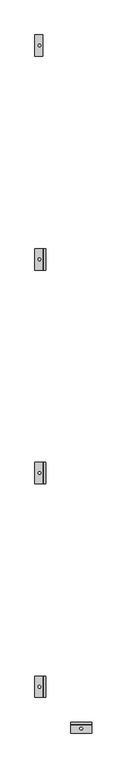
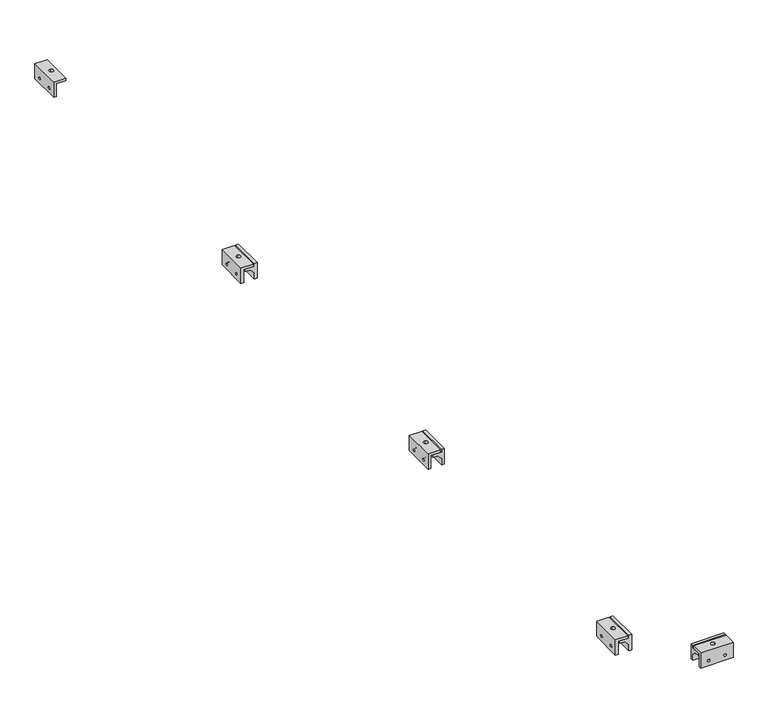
"""IFC4 building model written with IfcOpenShell, lengths in millimetres: railing geometry, Handrail-InPro-HR12-C-Prism-Metal_Bracket-Wood."""

from ifc_helpers import new_model, si_unit, frame, origin, place, context, project, spatial, polyline, circle_curve, ellipse_curve, source, transform, mapped, element, save
from ifc_brep_helpers import plane_surface, revolved_surface, advanced_brep


def railing_993f5558(model_context):
    return source(origin(), model_context, "Body", "AdvancedBrep", [
        advanced_brep(
        [(-5165.0382624, 1762.7943008, 844.55), (-5165.0382624, 1785.0193008, 844.55), (-5165.0382624, 1785.0193008, 850.9), (-5165.0382624, 1756.4443008, 850.9), (-5165.0382624, 1756.4443008, 812.8), (-5165.0382624, 1762.7943008, 812.8), (-5241.2382624, 1762.7943008, 844.55), (-5241.2382624, 1762.7943008, 812.8), (-5241.2382624, 1756.4443008, 812.8), (-5241.2382624, 1756.4443008, 850.9), (-5241.2382624, 1785.0193008, 850.9), (-5241.2382624, 1785.0193008, 844.55), (-5207.9007624, 1772.7161758, 844.55), (-5198.3757624, 1772.7161758, 844.55), (-5198.3757624, 1772.7161758, 850.9), (-5207.9007624, 1772.7161758, 850.9), (-5219.4704624, 1756.4443008, 825.3070671), (-5224.9060624, 1756.4443008, 825.3070671), (-5181.3704624, 1756.4443008, 825.3070671), (-5186.8060624, 1756.4443008, 825.3070671), (-5224.9060624, 1762.7943008, 825.3070671), (-5219.4704624, 1762.7943008, 825.3070671), (-5186.8060624, 1762.7943008, 825.3070671), (-5181.3704624, 1762.7943008, 825.3070671)],
        [
            (0, 1),
            (1, 2),
            (2, 3),
            (3, 4),
            (4, 5),
            (5, 0),
            (6, 7),
            (7, 8),
            (8, 9),
            (9, 10),
            (10, 11),
            (11, 6),
            (0, 6),
            (11, 1),
            (12, 13, circle_curve(frame((-5203.1382624, 1772.7161758, 844.55), z_axis=(0.0, 0.0, 1.0), x_axis=(1.0, 0.0, 0.0)), 4.7625)),
            (13, 12, circle_curve(frame((-5203.1382624, 1772.7161758, 844.55), z_axis=(0.0, 0.0, 1.0), x_axis=(1.0, 0.0, 0.0)), 4.7625)),
            (10, 2),
            (9, 3),
            (14, 15, circle_curve(frame((-5203.1382624, 1772.7161758, 850.9), z_axis=(0.0, 0.0, -1.0), x_axis=(1.0, 0.0, 0.0)), 4.7625)),
            (15, 14, circle_curve(frame((-5203.1382624, 1772.7161758, 850.9), z_axis=(0.0, 0.0, -1.0), x_axis=(1.0, 0.0, 0.0)), 4.7625)),
            (8, 4),
            (16, 17, circle_curve(frame((-5222.1882624, 1756.4443008, 825.3070671), z_axis=(0.0, 1.0, 0.0), x_axis=(-1.0, 0.0, 0.0)), 2.7178)),
            (17, 16, circle_curve(frame((-5222.1882624, 1756.4443008, 825.3070671), z_axis=(0.0, 1.0, 0.0), x_axis=(-1.0, 0.0, 0.0)), 2.7178)),
            (18, 19, circle_curve(frame((-5184.0882624, 1756.4443008, 825.3070671), z_axis=(0.0, 1.0, 0.0), x_axis=(-1.0, 0.0, 0.0)), 2.7178)),
            (19, 18, circle_curve(frame((-5184.0882624, 1756.4443008, 825.3070671), z_axis=(0.0, 1.0, 0.0), x_axis=(-1.0, 0.0, 0.0)), 2.7178)),
            (7, 5),
            (20, 21, circle_curve(frame((-5222.1882624, 1762.7943008, 825.3070671), z_axis=(0.0, -1.0, 0.0), x_axis=(-1.0, 0.0, 0.0)), 2.7178)),
            (21, 20, circle_curve(frame((-5222.1882624, 1762.7943008, 825.3070671), z_axis=(0.0, -1.0, 0.0), x_axis=(-1.0, 0.0, 0.0)), 2.7178)),
            (22, 23, circle_curve(frame((-5184.0882624, 1762.7943008, 825.3070671), z_axis=(0.0, -1.0, 0.0), x_axis=(-1.0, 0.0, 0.0)), 2.7178)),
            (23, 22, circle_curve(frame((-5184.0882624, 1762.7943008, 825.3070671), z_axis=(0.0, -1.0, 0.0), x_axis=(-1.0, 0.0, 0.0)), 2.7178)),
            (12, 15),
            (14, 13),
            (20, 17),
            (16, 21),
            (22, 19),
            (18, 23),
        ],
        [
            plane_surface(frame((-5165.0382624, 1762.7943008, 844.55), z_axis=(1.0, 0.0, 0.0), x_axis=(0.0, 1.0, 0.0))),
            plane_surface(frame((-5241.2382624, 1762.7943008, 844.55), z_axis=(-1.0, 0.0, 0.0), x_axis=(0.0, -1.0, 0.0))),
            plane_surface(frame((-5165.0382624, 1762.7943008, 844.55), z_axis=(0.0, 0.0, -1.0), x_axis=(-1.0, 0.0, 0.0))),
            plane_surface(frame((-5165.0382624, 1785.0193008, 844.55), z_axis=(0.0, 1.0, 0.0), x_axis=(-1.0, 0.0, 0.0))),
            plane_surface(frame((-5165.0382624, 1785.0193008, 850.9), z_axis=(0.0, 0.0, 1.0), x_axis=(-1.0, 0.0, 0.0))),
            plane_surface(frame((-5165.0382624, 1756.4443008, 850.9), z_axis=(0.0, -1.0, 0.0), x_axis=(-1.0, 0.0, 0.0))),
            plane_surface(frame((-5165.0382624, 1756.4443008, 812.8), z_axis=(0.0, 0.0, -1.0), x_axis=(-1.0, 0.0, 0.0))),
            plane_surface(frame((-5165.0382624, 1762.7943008, 812.8), z_axis=(0.0, 1.0, 0.0), x_axis=(-1.0, 0.0, 0.0))),
            revolved_surface(polyline([(-5198.3757624, 1772.7161758, 850.9), (-5198.3757624, 1772.7161758, 844.55)]), (-5203.1382624, 1772.7161758, 812.8), (0.0, 0.0, 1.0)),
            revolved_surface(polyline([(-5224.9060624, 1762.7943008, 825.3070671), (-5224.9060624, 1756.4443008, 825.3070671)]), (-5222.1882624, 1756.4443008, 825.3070671), (0.0, 1.0, 0.0)),
            revolved_surface(polyline([(-5186.8060624, 1762.7943008, 825.3070671), (-5186.8060624, 1756.4443008, 825.3070671)]), (-5184.0882624, 1794.5443008, 825.3070671), (0.0, 1.0, 0.0)),
        ],
        [
            (0, [[1, 2, 3, 4, 5, 6]]),
            (1, [[7, 8, 9, 10, 11, 12]]),
            (2, [[-1, 13, -12, 14], [15, 16]]),
            (3, [[-2, -14, -11, 17]]),
            (4, [[-3, -17, -10, 18], [19, 20]]),
            (5, [[-4, -18, -9, 21], [22, 23], [24, 25]]),
            (6, [[-5, -21, -8, 26]]),
            (7, [[-6, -26, -7, -13], [27, 28], [29, 30]]),
            (8, [[31, -19, 32, -15]]),
            (8, [[-31, -16, -32, -20]]),
            (9, [[33, -22, 34, -27]]),
            (9, [[-33, -28, -34, -23]]),
            (10, [[35, -24, 36, -29]]),
            (10, [[-35, -30, -36, -25]]),
        ],
    ),
        advanced_brep(
        [(-5165.0382624, 1788.1943008, 812.8), (-5165.0382624, 1794.5443008, 812.8), (-5165.0382624, 1794.5443008, 850.9), (-5165.0382624, 1788.1943008, 850.9), (-5165.0382624, 1788.1943008, 844.55), (-5165.0382624, 1766.7630508, 844.55), (-5165.0382624, 1766.7630508, 838.2), (-5165.0382624, 1778.6693008, 838.2), (-5165.0382624, 1788.1943008, 828.675), (-5241.2382624, 1788.1943008, 812.8), (-5241.2382624, 1788.1943008, 828.675), (-5241.2382624, 1778.6693008, 838.2), (-5241.2382624, 1766.7630508, 838.2), (-5241.2382624, 1766.7630508, 844.55), (-5241.2382624, 1788.1943008, 844.55), (-5241.2382624, 1788.1943008, 850.9), (-5241.2382624, 1794.5443008, 850.9), (-5241.2382624, 1794.5443008, 812.8), (-5209.0913874, 1794.5443008, 825.3070671), (-5197.1851374, 1794.5443008, 825.3070671), (-5198.3757624, 1772.7161758, 844.55), (-5207.9007624, 1772.7161758, 844.55), (-5207.9007624, 1772.7161758, 838.2), (-5198.3757624, 1772.7161758, 838.2), (-5208.0471039, 1788.1943008, 828.675), (-5198.2294208, 1788.1943008, 828.675), (-5197.1851374, 1788.1943008, 825.3070671), (-5209.0913874, 1788.1943008, 825.3070671)],
        [
            (0, 1),
            (1, 2),
            (2, 3),
            (3, 4),
            (4, 5),
            (5, 6),
            (6, 7),
            (7, 8),
            (8, 0),
            (9, 10),
            (10, 11),
            (11, 12),
            (12, 13),
            (13, 14),
            (14, 15),
            (15, 16),
            (16, 17),
            (17, 9),
            (0, 9),
            (17, 1),
            (16, 2),
            (18, 19, circle_curve(frame((-5203.1382624, 1794.5443008, 825.3070671), z_axis=(0.0, -1.0, 0.0), x_axis=(-1.0, 0.0, 0.0)), 5.953125)),
            (19, 18, circle_curve(frame((-5203.1382624, 1794.5443008, 825.3070671), z_axis=(0.0, -1.0, 0.0), x_axis=(-1.0, 0.0, 0.0)), 5.953125)),
            (15, 3),
            (14, 4),
            (13, 5),
            (20, 21, circle_curve(frame((-5203.1382624, 1772.7161758, 844.55), z_axis=(0.0, 0.0, -1.0), x_axis=(1.0, 0.0, 0.0)), 4.7625)),
            (21, 20, circle_curve(frame((-5203.1382624, 1772.7161758, 844.55), z_axis=(0.0, 0.0, -1.0), x_axis=(1.0, 0.0, 0.0)), 4.7625)),
            (12, 6),
            (11, 7),
            (22, 23, circle_curve(frame((-5203.1382624, 1772.7161758, 838.2), z_axis=(0.0, 0.0, 1.0), x_axis=(1.0, 0.0, 0.0)), 4.7625)),
            (23, 22, circle_curve(frame((-5203.1382624, 1772.7161758, 838.2), z_axis=(0.0, 0.0, 1.0), x_axis=(1.0, 0.0, 0.0)), 4.7625)),
            (10, 24),
            (24, 25, ellipse_curve(frame((-5203.1382624, 1791.5622336, 825.3070671), z_axis=(0.0, 0.7071067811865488, 0.7071067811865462), x_axis=(0.0, 0.7071067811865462, -0.7071067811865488)), 8.4189901, 5.953125)),
            (25, 8),
            (25, 26, circle_curve(frame((-5203.1382624, 1788.1943008, 825.3070671), z_axis=(0.0, 1.0, 0.0), x_axis=(-1.0, 0.0, 0.0)), 5.953125)),
            (26, 27, circle_curve(frame((-5203.1382624, 1788.1943008, 825.3070671), z_axis=(0.0, 1.0, 0.0), x_axis=(-1.0, 0.0, 0.0)), 5.953125)),
            (27, 24, circle_curve(frame((-5203.1382624, 1788.1943008, 825.3070671), z_axis=(0.0, 1.0, 0.0), x_axis=(-1.0, 0.0, 0.0)), 5.953125)),
            (22, 21),
            (20, 23),
            (26, 19),
            (18, 27),
        ],
        [
            plane_surface(frame((-5165.0382624, 1794.5443008, 812.8), z_axis=(1.0, 0.0, 0.0), x_axis=(0.0, 1.0, 0.0))),
            plane_surface(frame((-5241.2382624, 1794.5443008, 812.8), z_axis=(-1.0, 0.0, 0.0), x_axis=(0.0, -1.0, 0.0))),
            plane_surface(frame((-5165.0382624, 1788.1943008, 812.8), z_axis=(0.0, 0.0, -1.0), x_axis=(-1.0, 0.0, 0.0))),
            plane_surface(frame((-5165.0382624, 1794.5443008, 812.8), z_axis=(0.0, 1.0, 0.0), x_axis=(-1.0, 0.0, 0.0))),
            plane_surface(frame((-5165.0382624, 1794.5443008, 850.9), z_axis=(0.0, 0.0, 1.0), x_axis=(-1.0, 0.0, 0.0))),
            plane_surface(frame((-5165.0382624, 1788.1943008, 850.9), z_axis=(0.0, -1.0, 0.0), x_axis=(-1.0, 0.0, 0.0))),
            plane_surface(frame((-5165.0382624, 1788.1943008, 844.55), z_axis=(0.0, 0.0, 1.0), x_axis=(-1.0, 0.0, 0.0))),
            plane_surface(frame((-5165.0382624, 1766.7630508, 844.55), z_axis=(0.0, -1.0, 0.0), x_axis=(-1.0, 0.0, 0.0))),
            plane_surface(frame((-5165.0382624, 1766.7630508, 838.2), z_axis=(0.0, 0.0, -1.0), x_axis=(-1.0, 0.0, 0.0))),
            plane_surface(frame((-5165.0382624, 1778.6693008, 838.2), z_axis=(0.0, -0.7071067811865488, -0.7071067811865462), x_axis=(-1.0, 0.0, 0.0))),
            plane_surface(frame((-5165.0382624, 1788.1943008, 828.675), z_axis=(0.0, -1.0, 0.0), x_axis=(-1.0, 0.0, 0.0))),
            revolved_surface(polyline([(-5198.3757624, 1772.7161758, 844.55), (-5198.3757624, 1772.7161758, 838.2)]), (-5203.1382624, 1772.7161758, 812.8), (0.0, 0.0, 1.0)),
            revolved_surface(polyline([(-5209.0913874, 1794.5443008, 825.3070671), (-5209.0913874, 1788.1943008, 825.3070671)]), (-5203.1382624, 1785.0193008, 825.3070671), (0.0, 1.0, 0.0)),
            revolved_surface(polyline([(-5209.0913874, 1797.5153585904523, 825.3070671), (-5209.0913874, 1785.6091086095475, 825.3070671)]), (-5203.1382624, 1785.0193008, 825.3070671), (0.0, 1.0, 0.0)),
        ],
        [
            (0, [[1, 2, 3, 4, 5, 6, 7, 8, 9]]),
            (1, [[10, 11, 12, 13, 14, 15, 16, 17, 18]]),
            (2, [[-1, 19, -18, 20]]),
            (3, [[-2, -20, -17, 21], [22, 23]]),
            (4, [[-3, -21, -16, 24]]),
            (5, [[-4, -24, -15, 25]]),
            (6, [[-5, -25, -14, 26], [27, 28]]),
            (7, [[-6, -26, -13, 29]]),
            (8, [[-7, -29, -12, 30], [31, 32]]),
            (9, [[-8, -30, -11, 33, 34, 35]]),
            (10, [[-9, -35, 36, 37, 38, -33, -10, -19]]),
            (11, [[39, -27, 40, -31]]),
            (11, [[-39, -32, -40, -28]]),
            (12, [[41, -22, 42, -37]]),
            (13, [[-41, -36, -34, -38, -42, -23]]),
        ],
    ),
        advanced_brep(
        [(-5361.8882624, 1883.4443008, 844.55), (-5339.6632624, 1883.4443008, 844.55), (-5339.6632624, 1883.4443008, 850.9), (-5368.2382624, 1883.4443008, 850.9), (-5368.2382624, 1883.4443008, 812.8), (-5361.8882624, 1883.4443008, 812.8), (-5361.8882624, 1959.6443008, 844.55), (-5361.8882624, 1959.6443008, 812.8), (-5368.2382624, 1959.6443008, 812.8), (-5368.2382624, 1959.6443008, 850.9), (-5339.6632624, 1959.6443008, 850.9), (-5339.6632624, 1959.6443008, 844.55), (-5351.9663874, 1926.3068008, 844.55), (-5351.9663874, 1916.7818008, 844.55), (-5351.9663874, 1916.7818008, 850.9), (-5351.9663874, 1926.3068008, 850.9), (-5368.2382624, 1937.8765008, 825.3070671), (-5368.2382624, 1943.3121008, 825.3070671), (-5368.2382624, 1899.7765008, 825.3070671), (-5368.2382624, 1905.2121008, 825.3070671), (-5361.8882624, 1943.3121008, 825.3070671), (-5361.8882624, 1937.8765008, 825.3070671), (-5361.8882624, 1905.2121008, 825.3070671), (-5361.8882624, 1899.7765008, 825.3070671)],
        [
            (0, 1),
            (1, 2),
            (2, 3),
            (3, 4),
            (4, 5),
            (5, 0),
            (6, 7),
            (7, 8),
            (8, 9),
            (9, 10),
            (10, 11),
            (11, 6),
            (0, 6),
            (11, 1),
            (12, 13, circle_curve(frame((-5351.9663874, 1921.5443008, 844.55), z_axis=(0.0, 0.0, 1.0), x_axis=(0.0, -1.0, 0.0)), 4.7625)),
            (13, 12, circle_curve(frame((-5351.9663874, 1921.5443008, 844.55), z_axis=(0.0, 0.0, 1.0), x_axis=(0.0, -1.0, 0.0)), 4.7625)),
            (10, 2),
            (9, 3),
            (14, 15, circle_curve(frame((-5351.9663874, 1921.5443008, 850.9), z_axis=(0.0, 0.0, -1.0), x_axis=(0.0, -1.0, 0.0)), 4.7625)),
            (15, 14, circle_curve(frame((-5351.9663874, 1921.5443008, 850.9), z_axis=(0.0, 0.0, -1.0), x_axis=(0.0, -1.0, 0.0)), 4.7625)),
            (8, 4),
            (16, 17, circle_curve(frame((-5368.2382624, 1940.5943008, 825.3070671), z_axis=(1.0, 0.0, 0.0), x_axis=(0.0, 1.0, 0.0)), 2.7178)),
            (17, 16, circle_curve(frame((-5368.2382624, 1940.5943008, 825.3070671), z_axis=(1.0, 0.0, 0.0), x_axis=(0.0, 1.0, 0.0)), 2.7178)),
            (18, 19, circle_curve(frame((-5368.2382624, 1902.4943008, 825.3070671), z_axis=(1.0, 0.0, 0.0), x_axis=(0.0, 1.0, 0.0)), 2.7178)),
            (19, 18, circle_curve(frame((-5368.2382624, 1902.4943008, 825.3070671), z_axis=(1.0, 0.0, 0.0), x_axis=(0.0, 1.0, 0.0)), 2.7178)),
            (7, 5),
            (20, 21, circle_curve(frame((-5361.8882624, 1940.5943008, 825.3070671), z_axis=(-1.0, 0.0, 0.0), x_axis=(0.0, 1.0, 0.0)), 2.7178)),
            (21, 20, circle_curve(frame((-5361.8882624, 1940.5943008, 825.3070671), z_axis=(-1.0, 0.0, 0.0), x_axis=(0.0, 1.0, 0.0)), 2.7178)),
            (22, 23, circle_curve(frame((-5361.8882624, 1902.4943008, 825.3070671), z_axis=(-1.0, 0.0, 0.0), x_axis=(0.0, 1.0, 0.0)), 2.7178)),
            (23, 22, circle_curve(frame((-5361.8882624, 1902.4943008, 825.3070671), z_axis=(-1.0, 0.0, 0.0), x_axis=(0.0, 1.0, 0.0)), 2.7178)),
            (12, 15),
            (14, 13),
            (20, 17),
            (16, 21),
            (22, 19),
            (18, 23),
        ],
        [
            plane_surface(frame((-5361.8882624, 1883.4443008, 844.55), z_axis=(0.0, -1.0, 0.0), x_axis=(1.0, 0.0, 0.0))),
            plane_surface(frame((-5361.8882624, 1959.6443008, 844.55), z_axis=(0.0, 1.0, 0.0), x_axis=(-1.0, 0.0, 0.0))),
            plane_surface(frame((-5361.8882624, 1883.4443008, 844.55), z_axis=(0.0, 0.0, -1.0), x_axis=(0.0, 1.0, 0.0))),
            plane_surface(frame((-5339.6632624, 1883.4443008, 844.55), z_axis=(1.0, 0.0, 0.0), x_axis=(0.0, 1.0, 0.0))),
            plane_surface(frame((-5339.6632624, 1883.4443008, 850.9), z_axis=(0.0, 0.0, 1.0), x_axis=(0.0, 1.0, 0.0))),
            plane_surface(frame((-5368.2382624, 1883.4443008, 850.9), z_axis=(-1.0, 0.0, 0.0), x_axis=(0.0, 1.0, 0.0))),
            plane_surface(frame((-5368.2382624, 1883.4443008, 812.8), z_axis=(0.0, 0.0, -1.0), x_axis=(0.0, 1.0, 0.0))),
            plane_surface(frame((-5361.8882624, 1883.4443008, 812.8), z_axis=(1.0, 0.0, 0.0), x_axis=(0.0, 1.0, 0.0))),
            revolved_surface(polyline([(-5351.9663874, 1916.7818008, 850.9), (-5351.9663874, 1916.7818008, 844.55)]), (-5351.9663874, 1921.5443008, 812.8), (0.0, 0.0, 1.0)),
            revolved_surface(polyline([(-5361.8882624, 1943.3121007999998, 825.3070671), (-5368.2382624, 1943.3121007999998, 825.3070671)]), (-5368.2382624, 1940.5943008, 825.3070671), (1.0, 0.0, 0.0)),
            revolved_surface(polyline([(-5361.8882624, 1905.2121008, 825.3070671), (-5368.2382624, 1905.2121008, 825.3070671)]), (-5330.1382624, 1902.4943008, 825.3070671), (1.0, 0.0, 0.0)),
        ],
        [
            (0, [[1, 2, 3, 4, 5, 6]]),
            (1, [[7, 8, 9, 10, 11, 12]]),
            (2, [[-1, 13, -12, 14], [15, 16]]),
            (3, [[-2, -14, -11, 17]]),
            (4, [[-3, -17, -10, 18], [19, 20]]),
            (5, [[-4, -18, -9, 21], [22, 23], [24, 25]]),
            (6, [[-5, -21, -8, 26]]),
            (7, [[-6, -26, -7, -13], [27, 28], [29, 30]]),
            (8, [[31, -19, 32, -15]]),
            (8, [[-31, -16, -32, -20]]),
            (9, [[33, -22, 34, -27]]),
            (9, [[-33, -28, -34, -23]]),
            (10, [[35, -24, 36, -29]]),
            (10, [[-35, -30, -36, -25]]),
        ],
    ),
        advanced_brep(
        [(-5336.4882624, 1883.4443008, 812.8), (-5330.1382624, 1883.4443008, 812.8), (-5330.1382624, 1883.4443008, 850.9), (-5336.4882624, 1883.4443008, 850.9), (-5336.4882624, 1883.4443008, 844.55), (-5357.9195124, 1883.4443008, 844.55), (-5357.9195124, 1883.4443008, 838.2), (-5346.0132624, 1883.4443008, 838.2), (-5336.4882624, 1883.4443008, 828.675), (-5336.4882624, 1959.6443008, 812.8), (-5336.4882624, 1959.6443008, 828.675), (-5346.0132624, 1959.6443008, 838.2), (-5357.9195124, 1959.6443008, 838.2), (-5357.9195124, 1959.6443008, 844.55), (-5336.4882624, 1959.6443008, 844.55), (-5336.4882624, 1959.6443008, 850.9), (-5330.1382624, 1959.6443008, 850.9), (-5330.1382624, 1959.6443008, 812.8), (-5330.1382624, 1927.4974258, 825.3070671), (-5330.1382624, 1915.5911758, 825.3070671), (-5351.9663874, 1916.7818008, 844.55), (-5351.9663874, 1926.3068008, 844.55), (-5351.9663874, 1926.3068008, 838.2), (-5351.9663874, 1916.7818008, 838.2), (-5336.4882624, 1926.4531423, 828.675), (-5336.4882624, 1916.6354592, 828.675), (-5336.4882624, 1915.5911758, 825.3070671), (-5336.4882624, 1927.4974258, 825.3070671)],
        [
            (0, 1),
            (1, 2),
            (2, 3),
            (3, 4),
            (4, 5),
            (5, 6),
            (6, 7),
            (7, 8),
            (8, 0),
            (9, 10),
            (10, 11),
            (11, 12),
            (12, 13),
            (13, 14),
            (14, 15),
            (15, 16),
            (16, 17),
            (17, 9),
            (0, 9),
            (17, 1),
            (16, 2),
            (18, 19, circle_curve(frame((-5330.1382624, 1921.5443008, 825.3070671), z_axis=(-1.0, 0.0, 0.0), x_axis=(0.0, 1.0, 0.0)), 5.953125)),
            (19, 18, circle_curve(frame((-5330.1382624, 1921.5443008, 825.3070671), z_axis=(-1.0, 0.0, 0.0), x_axis=(0.0, 1.0, 0.0)), 5.953125)),
            (15, 3),
            (14, 4),
            (13, 5),
            (20, 21, circle_curve(frame((-5351.9663874, 1921.5443008, 844.55), z_axis=(0.0, 0.0, -1.0), x_axis=(0.0, -1.0, 0.0)), 4.7625)),
            (21, 20, circle_curve(frame((-5351.9663874, 1921.5443008, 844.55), z_axis=(0.0, 0.0, -1.0), x_axis=(0.0, -1.0, 0.0)), 4.7625)),
            (12, 6),
            (11, 7),
            (22, 23, circle_curve(frame((-5351.9663874, 1921.5443008, 838.2), z_axis=(0.0, 0.0, 1.0), x_axis=(0.0, -1.0, 0.0)), 4.7625)),
            (23, 22, circle_curve(frame((-5351.9663874, 1921.5443008, 838.2), z_axis=(0.0, 0.0, 1.0), x_axis=(0.0, -1.0, 0.0)), 4.7625)),
            (10, 24),
            (24, 25, ellipse_curve(frame((-5333.1203295, 1921.5443008, 825.3070671), z_axis=(0.7071067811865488, 0.0, 0.7071067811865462), x_axis=(0.7071067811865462, 0.0, -0.7071067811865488)), 8.4189901, 5.953125)),
            (25, 8),
            (25, 26, circle_curve(frame((-5336.4882624, 1921.5443008, 825.3070671), z_axis=(1.0, 0.0, 0.0), x_axis=(0.0, 1.0, 0.0)), 5.953125)),
            (26, 27, circle_curve(frame((-5336.4882624, 1921.5443008, 825.3070671), z_axis=(1.0, 0.0, 0.0), x_axis=(0.0, 1.0, 0.0)), 5.953125)),
            (27, 24, circle_curve(frame((-5336.4882624, 1921.5443008, 825.3070671), z_axis=(1.0, 0.0, 0.0), x_axis=(0.0, 1.0, 0.0)), 5.953125)),
            (22, 21),
            (20, 23),
            (26, 19),
            (18, 27),
        ],
        [
            plane_surface(frame((-5330.1382624, 1883.4443008, 812.8), z_axis=(0.0, -1.0, 0.0), x_axis=(1.0, 0.0, 0.0))),
            plane_surface(frame((-5330.1382624, 1959.6443008, 812.8), z_axis=(0.0, 1.0, 0.0), x_axis=(-1.0, 0.0, 0.0))),
            plane_surface(frame((-5336.4882624, 1883.4443008, 812.8), z_axis=(0.0, 0.0, -1.0), x_axis=(0.0, 1.0, 0.0))),
            plane_surface(frame((-5330.1382624, 1883.4443008, 812.8), z_axis=(1.0, 0.0, 0.0), x_axis=(0.0, 1.0, 0.0))),
            plane_surface(frame((-5330.1382624, 1883.4443008, 850.9), z_axis=(0.0, 0.0, 1.0), x_axis=(0.0, 1.0, 0.0))),
            plane_surface(frame((-5336.4882624, 1883.4443008, 850.9), z_axis=(-1.0, 0.0, 0.0), x_axis=(0.0, 1.0, 0.0))),
            plane_surface(frame((-5336.4882624, 1883.4443008, 844.55), z_axis=(0.0, 0.0, 1.0), x_axis=(0.0, 1.0, 0.0))),
            plane_surface(frame((-5357.9195124, 1883.4443008, 844.55), z_axis=(-1.0, 0.0, 0.0), x_axis=(0.0, 1.0, 0.0))),
            plane_surface(frame((-5357.9195124, 1883.4443008, 838.2), z_axis=(0.0, 0.0, -1.0), x_axis=(0.0, 1.0, 0.0))),
            plane_surface(frame((-5346.0132624, 1883.4443008, 838.2), z_axis=(-0.7071067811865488, 0.0, -0.7071067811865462), x_axis=(0.0, 1.0, 0.0))),
            plane_surface(frame((-5336.4882624, 1883.4443008, 828.675), z_axis=(-1.0, 0.0, 0.0), x_axis=(0.0, 1.0, 0.0))),
            revolved_surface(polyline([(-5351.9663874, 1916.7818008, 844.55), (-5351.9663874, 1916.7818008, 838.2)]), (-5351.9663874, 1921.5443008, 812.8), (0.0, 0.0, 1.0)),
            revolved_surface(polyline([(-5330.1382624, 1927.4974258, 825.3070671), (-5336.4882624, 1927.4974258, 825.3070671)]), (-5339.6632624, 1921.5443008, 825.3070671), (1.0, 0.0, 0.0)),
            revolved_surface(polyline([(-5327.167204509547, 1927.4974258, 825.3070671), (-5339.073454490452, 1927.4974258, 825.3070671)]), (-5339.6632624, 1921.5443008, 825.3070671), (1.0, 0.0, 0.0)),
        ],
        [
            (0, [[1, 2, 3, 4, 5, 6, 7, 8, 9]]),
            (1, [[10, 11, 12, 13, 14, 15, 16, 17, 18]]),
            (2, [[-1, 19, -18, 20]]),
            (3, [[-2, -20, -17, 21], [22, 23]]),
            (4, [[-3, -21, -16, 24]]),
            (5, [[-4, -24, -15, 25]]),
            (6, [[-5, -25, -14, 26], [27, 28]]),
            (7, [[-6, -26, -13, 29]]),
            (8, [[-7, -29, -12, 30], [31, 32]]),
            (9, [[-8, -30, -11, 33, 34, 35]]),
            (10, [[-9, -35, 36, 37, 38, -33, -10, -19]]),
            (11, [[39, -27, 40, -31]]),
            (11, [[-39, -32, -40, -28]]),
            (12, [[41, -22, 42, -37]]),
            (13, [[-41, -36, -34, -38, -42, -23]]),
        ],
    ),
        advanced_brep(
        [(-5361.8882624, 2645.4443008, 844.55), (-5339.6632624, 2645.4443008, 844.55), (-5339.6632624, 2645.4443008, 850.9), (-5368.2382624, 2645.4443008, 850.9), (-5368.2382624, 2645.4443008, 812.8), (-5361.8882624, 2645.4443008, 812.8), (-5361.8882624, 2721.6443008, 844.55), (-5361.8882624, 2721.6443008, 812.8), (-5368.2382624, 2721.6443008, 812.8), (-5368.2382624, 2721.6443008, 850.9), (-5339.6632624, 2721.6443008, 850.9), (-5339.6632624, 2721.6443008, 844.55), (-5351.9663874, 2688.3068008, 844.55), (-5351.9663874, 2678.7818008, 844.55), (-5351.9663874, 2678.7818008, 850.9), (-5351.9663874, 2688.3068008, 850.9), (-5368.2382624, 2699.8765008, 825.3070671), (-5368.2382624, 2705.3121008, 825.3070671), (-5368.2382624, 2661.7765008, 825.3070671), (-5368.2382624, 2667.2121008, 825.3070671), (-5361.8882624, 2705.3121008, 825.3070671), (-5361.8882624, 2699.8765008, 825.3070671), (-5361.8882624, 2667.2121008, 825.3070671), (-5361.8882624, 2661.7765008, 825.3070671)],
        [
            (0, 1),
            (1, 2),
            (2, 3),
            (3, 4),
            (4, 5),
            (5, 0),
            (6, 7),
            (7, 8),
            (8, 9),
            (9, 10),
            (10, 11),
            (11, 6),
            (0, 6),
            (11, 1),
            (12, 13, circle_curve(frame((-5351.9663874, 2683.5443008, 844.55), z_axis=(0.0, 0.0, 1.0), x_axis=(0.0, -1.0, 0.0)), 4.7625)),
            (13, 12, circle_curve(frame((-5351.9663874, 2683.5443008, 844.55), z_axis=(0.0, 0.0, 1.0), x_axis=(0.0, -1.0, 0.0)), 4.7625)),
            (10, 2),
            (9, 3),
            (14, 15, circle_curve(frame((-5351.9663874, 2683.5443008, 850.9), z_axis=(0.0, 0.0, -1.0), x_axis=(0.0, -1.0, 0.0)), 4.7625)),
            (15, 14, circle_curve(frame((-5351.9663874, 2683.5443008, 850.9), z_axis=(0.0, 0.0, -1.0), x_axis=(0.0, -1.0, 0.0)), 4.7625)),
            (8, 4),
            (16, 17, circle_curve(frame((-5368.2382624, 2702.5943008, 825.3070671), z_axis=(1.0, 0.0, 0.0), x_axis=(0.0, 1.0, 0.0)), 2.7178)),
            (17, 16, circle_curve(frame((-5368.2382624, 2702.5943008, 825.3070671), z_axis=(1.0, 0.0, 0.0), x_axis=(0.0, 1.0, 0.0)), 2.7178)),
            (18, 19, circle_curve(frame((-5368.2382624, 2664.4943008, 825.3070671), z_axis=(1.0, 0.0, 0.0), x_axis=(0.0, 1.0, 0.0)), 2.7178)),
            (19, 18, circle_curve(frame((-5368.2382624, 2664.4943008, 825.3070671), z_axis=(1.0, 0.0, 0.0), x_axis=(0.0, 1.0, 0.0)), 2.7178)),
            (7, 5),
            (20, 21, circle_curve(frame((-5361.8882624, 2702.5943008, 825.3070671), z_axis=(-1.0, 0.0, 0.0), x_axis=(0.0, 1.0, 0.0)), 2.7178)),
            (21, 20, circle_curve(frame((-5361.8882624, 2702.5943008, 825.3070671), z_axis=(-1.0, 0.0, 0.0), x_axis=(0.0, 1.0, 0.0)), 2.7178)),
            (22, 23, circle_curve(frame((-5361.8882624, 2664.4943008, 825.3070671), z_axis=(-1.0, 0.0, 0.0), x_axis=(0.0, 1.0, 0.0)), 2.7178)),
            (23, 22, circle_curve(frame((-5361.8882624, 2664.4943008, 825.3070671), z_axis=(-1.0, 0.0, 0.0), x_axis=(0.0, 1.0, 0.0)), 2.7178)),
            (12, 15),
            (14, 13),
            (20, 17),
            (16, 21),
            (22, 19),
            (18, 23),
        ],
        [
            plane_surface(frame((-5361.8882624, 2645.4443008, 844.55), z_axis=(0.0, -1.0, 0.0), x_axis=(1.0, 0.0, 0.0))),
            plane_surface(frame((-5361.8882624, 2721.6443008, 844.55), z_axis=(0.0, 1.0, 0.0), x_axis=(-1.0, 0.0, 0.0))),
            plane_surface(frame((-5361.8882624, 2645.4443008, 844.55), z_axis=(0.0, 0.0, -1.0), x_axis=(0.0, 1.0, 0.0))),
            plane_surface(frame((-5339.6632624, 2645.4443008, 844.55), z_axis=(1.0, 0.0, 0.0), x_axis=(0.0, 1.0, 0.0))),
            plane_surface(frame((-5339.6632624, 2645.4443008, 850.9), z_axis=(0.0, 0.0, 1.0), x_axis=(0.0, 1.0, 0.0))),
            plane_surface(frame((-5368.2382624, 2645.4443008, 850.9), z_axis=(-1.0, 0.0, 0.0), x_axis=(0.0, 1.0, 0.0))),
            plane_surface(frame((-5368.2382624, 2645.4443008, 812.8), z_axis=(0.0, 0.0, -1.0), x_axis=(0.0, 1.0, 0.0))),
            plane_surface(frame((-5361.8882624, 2645.4443008, 812.8), z_axis=(1.0, 0.0, 0.0), x_axis=(0.0, 1.0, 0.0))),
            revolved_surface(polyline([(-5351.9663874, 2678.7818008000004, 850.9), (-5351.9663874, 2678.7818008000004, 844.55)]), (-5351.9663874, 2683.5443008, 812.8), (0.0, 0.0, 1.0)),
            revolved_surface(polyline([(-5361.8882624, 2705.3121008, 825.3070671), (-5368.2382624, 2705.3121008, 825.3070671)]), (-5368.2382624, 2702.5943008, 825.3070671), (1.0, 0.0, 0.0)),
            revolved_surface(polyline([(-5361.8882624, 2667.2121008, 825.3070671), (-5368.2382624, 2667.2121008, 825.3070671)]), (-5330.1382624, 2664.4943008, 825.3070671), (1.0, 0.0, 0.0)),
        ],
        [
            (0, [[1, 2, 3, 4, 5, 6]]),
            (1, [[7, 8, 9, 10, 11, 12]]),
            (2, [[-1, 13, -12, 14], [15, 16]]),
            (3, [[-2, -14, -11, 17]]),
            (4, [[-3, -17, -10, 18], [19, 20]]),
            (5, [[-4, -18, -9, 21], [22, 23], [24, 25]]),
            (6, [[-5, -21, -8, 26]]),
            (7, [[-6, -26, -7, -13], [27, 28], [29, 30]]),
            (8, [[31, -19, 32, -15]]),
            (8, [[-31, -16, -32, -20]]),
            (9, [[33, -22, 34, -27]]),
            (9, [[-33, -28, -34, -23]]),
            (10, [[35, -24, 36, -29]]),
            (10, [[-35, -30, -36, -25]]),
        ],
    ),
        advanced_brep(
        [(-5336.4882624, 2645.4443008, 812.8), (-5330.1382624, 2645.4443008, 812.8), (-5330.1382624, 2645.4443008, 850.9), (-5336.4882624, 2645.4443008, 850.9), (-5336.4882624, 2645.4443008, 844.55), (-5357.9195124, 2645.4443008, 844.55), (-5357.9195124, 2645.4443008, 838.2), (-5346.0132624, 2645.4443008, 838.2), (-5336.4882624, 2645.4443008, 828.675), (-5336.4882624, 2721.6443008, 812.8), (-5336.4882624, 2721.6443008, 828.675), (-5346.0132624, 2721.6443008, 838.2), (-5357.9195124, 2721.6443008, 838.2), (-5357.9195124, 2721.6443008, 844.55), (-5336.4882624, 2721.6443008, 844.55), (-5336.4882624, 2721.6443008, 850.9), (-5330.1382624, 2721.6443008, 850.9), (-5330.1382624, 2721.6443008, 812.8), (-5330.1382624, 2689.4974258, 825.3070671), (-5330.1382624, 2677.5911758, 825.3070671), (-5351.9663874, 2678.7818008, 844.55), (-5351.9663874, 2688.3068008, 844.55), (-5351.9663874, 2688.3068008, 838.2), (-5351.9663874, 2678.7818008, 838.2), (-5336.4882624, 2688.4531423, 828.675), (-5336.4882624, 2678.6354592, 828.675), (-5336.4882624, 2677.5911758, 825.3070671), (-5336.4882624, 2689.4974258, 825.3070671)],
        [
            (0, 1),
            (1, 2),
            (2, 3),
            (3, 4),
            (4, 5),
            (5, 6),
            (6, 7),
            (7, 8),
            (8, 0),
            (9, 10),
            (10, 11),
            (11, 12),
            (12, 13),
            (13, 14),
            (14, 15),
            (15, 16),
            (16, 17),
            (17, 9),
            (0, 9),
            (17, 1),
            (16, 2),
            (18, 19, circle_curve(frame((-5330.1382624, 2683.5443008, 825.3070671), z_axis=(-1.0, 0.0, 0.0), x_axis=(0.0, 1.0, 0.0)), 5.953125)),
            (19, 18, circle_curve(frame((-5330.1382624, 2683.5443008, 825.3070671), z_axis=(-1.0, 0.0, 0.0), x_axis=(0.0, 1.0, 0.0)), 5.953125)),
            (15, 3),
            (14, 4),
            (13, 5),
            (20, 21, circle_curve(frame((-5351.9663874, 2683.5443008, 844.55), z_axis=(0.0, 0.0, -1.0), x_axis=(0.0, -1.0, 0.0)), 4.7625)),
            (21, 20, circle_curve(frame((-5351.9663874, 2683.5443008, 844.55), z_axis=(0.0, 0.0, -1.0), x_axis=(0.0, -1.0, 0.0)), 4.7625)),
            (12, 6),
            (11, 7),
            (22, 23, circle_curve(frame((-5351.9663874, 2683.5443008, 838.2), z_axis=(0.0, 0.0, 1.0), x_axis=(0.0, -1.0, 0.0)), 4.7625)),
            (23, 22, circle_curve(frame((-5351.9663874, 2683.5443008, 838.2), z_axis=(0.0, 0.0, 1.0), x_axis=(0.0, -1.0, 0.0)), 4.7625)),
            (10, 24),
            (24, 25, ellipse_curve(frame((-5333.1203295, 2683.5443008, 825.3070671), z_axis=(0.7071067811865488, 0.0, 0.7071067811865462), x_axis=(0.7071067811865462, 0.0, -0.7071067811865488)), 8.4189901, 5.953125)),
            (25, 8),
            (25, 26, circle_curve(frame((-5336.4882624, 2683.5443008, 825.3070671), z_axis=(1.0, 0.0, 0.0), x_axis=(0.0, 1.0, 0.0)), 5.953125)),
            (26, 27, circle_curve(frame((-5336.4882624, 2683.5443008, 825.3070671), z_axis=(1.0, 0.0, 0.0), x_axis=(0.0, 1.0, 0.0)), 5.953125)),
            (27, 24, circle_curve(frame((-5336.4882624, 2683.5443008, 825.3070671), z_axis=(1.0, 0.0, 0.0), x_axis=(0.0, 1.0, 0.0)), 5.953125)),
            (22, 21),
            (20, 23),
            (26, 19),
            (18, 27),
        ],
        [
            plane_surface(frame((-5330.1382624, 2645.4443008, 812.8), z_axis=(0.0, -1.0, 0.0), x_axis=(1.0, 0.0, 0.0))),
            plane_surface(frame((-5330.1382624, 2721.6443008, 812.8), z_axis=(0.0, 1.0, 0.0), x_axis=(-1.0, 0.0, 0.0))),
            plane_surface(frame((-5336.4882624, 2645.4443008, 812.8), z_axis=(0.0, 0.0, -1.0), x_axis=(0.0, 1.0, 0.0))),
            plane_surface(frame((-5330.1382624, 2645.4443008, 812.8), z_axis=(1.0, 0.0, 0.0), x_axis=(0.0, 1.0, 0.0))),
            plane_surface(frame((-5330.1382624, 2645.4443008, 850.9), z_axis=(0.0, 0.0, 1.0), x_axis=(0.0, 1.0, 0.0))),
            plane_surface(frame((-5336.4882624, 2645.4443008, 850.9), z_axis=(-1.0, 0.0, 0.0), x_axis=(0.0, 1.0, 0.0))),
            plane_surface(frame((-5336.4882624, 2645.4443008, 844.55), z_axis=(0.0, 0.0, 1.0), x_axis=(0.0, 1.0, 0.0))),
            plane_surface(frame((-5357.9195124, 2645.4443008, 844.55), z_axis=(-1.0, 0.0, 0.0), x_axis=(0.0, 1.0, 0.0))),
            plane_surface(frame((-5357.9195124, 2645.4443008, 838.2), z_axis=(0.0, 0.0, -1.0), x_axis=(0.0, 1.0, 0.0))),
            plane_surface(frame((-5346.0132624, 2645.4443008, 838.2), z_axis=(-0.7071067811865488, 0.0, -0.7071067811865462), x_axis=(0.0, 1.0, 0.0))),
            plane_surface(frame((-5336.4882624, 2645.4443008, 828.675), z_axis=(-1.0, 0.0, 0.0), x_axis=(0.0, 1.0, 0.0))),
            revolved_surface(polyline([(-5351.9663874, 2678.7818008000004, 844.55), (-5351.9663874, 2678.7818008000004, 838.2)]), (-5351.9663874, 2683.5443008, 812.8), (0.0, 0.0, 1.0)),
            revolved_surface(polyline([(-5330.1382624, 2689.4974258, 825.3070671), (-5336.4882624, 2689.4974258, 825.3070671)]), (-5339.6632624, 2683.5443008, 825.3070671), (1.0, 0.0, 0.0)),
            revolved_surface(polyline([(-5327.167204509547, 2689.4974258, 825.3070671), (-5339.073454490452, 2689.4974258, 825.3070671)]), (-5339.6632624, 2683.5443008, 825.3070671), (1.0, 0.0, 0.0)),
        ],
        [
            (0, [[1, 2, 3, 4, 5, 6, 7, 8, 9]]),
            (1, [[10, 11, 12, 13, 14, 15, 16, 17, 18]]),
            (2, [[-1, 19, -18, 20]]),
            (3, [[-2, -20, -17, 21], [22, 23]]),
            (4, [[-3, -21, -16, 24]]),
            (5, [[-4, -24, -15, 25]]),
            (6, [[-5, -25, -14, 26], [27, 28]]),
            (7, [[-6, -26, -13, 29]]),
            (8, [[-7, -29, -12, 30], [31, 32]]),
            (9, [[-8, -30, -11, 33, 34, 35]]),
            (10, [[-9, -35, 36, 37, 38, -33, -10, -19]]),
            (11, [[39, -27, 40, -31]]),
            (11, [[-39, -32, -40, -28]]),
            (12, [[41, -22, 42, -37]]),
            (13, [[-41, -36, -34, -38, -42, -23]]),
        ],
    ),
        advanced_brep(
        [(-5361.8882624, 3407.4443008, 844.55), (-5339.6632624, 3407.4443008, 844.55), (-5339.6632624, 3407.4443008, 850.9), (-5368.2382624, 3407.4443008, 850.9), (-5368.2382624, 3407.4443008, 812.8), (-5361.8882624, 3407.4443008, 812.8), (-5361.8882624, 3483.6443008, 844.55), (-5361.8882624, 3483.6443008, 812.8), (-5368.2382624, 3483.6443008, 812.8), (-5368.2382624, 3483.6443008, 850.9), (-5339.6632624, 3483.6443008, 850.9), (-5339.6632624, 3483.6443008, 844.55), (-5351.9663874, 3450.3068008, 844.55), (-5351.9663874, 3440.7818008, 844.55), (-5351.9663874, 3440.7818008, 850.9), (-5351.9663874, 3450.3068008, 850.9), (-5368.2382624, 3461.8765008, 825.3070671), (-5368.2382624, 3467.3121008, 825.3070671), (-5368.2382624, 3423.7765008, 825.3070671), (-5368.2382624, 3429.2121008, 825.3070671), (-5361.8882624, 3467.3121008, 825.3070671), (-5361.8882624, 3461.8765008, 825.3070671), (-5361.8882624, 3429.2121008, 825.3070671), (-5361.8882624, 3423.7765008, 825.3070671)],
        [
            (0, 1),
            (1, 2),
            (2, 3),
            (3, 4),
            (4, 5),
            (5, 0),
            (6, 7),
            (7, 8),
            (8, 9),
            (9, 10),
            (10, 11),
            (11, 6),
            (0, 6),
            (11, 1),
            (12, 13, circle_curve(frame((-5351.9663874, 3445.5443008, 844.55), z_axis=(0.0, 0.0, 1.0), x_axis=(0.0, -1.0, 0.0)), 4.7625)),
            (13, 12, circle_curve(frame((-5351.9663874, 3445.5443008, 844.55), z_axis=(0.0, 0.0, 1.0), x_axis=(0.0, -1.0, 0.0)), 4.7625)),
            (10, 2),
            (9, 3),
            (14, 15, circle_curve(frame((-5351.9663874, 3445.5443008, 850.9), z_axis=(0.0, 0.0, -1.0), x_axis=(0.0, -1.0, 0.0)), 4.7625)),
            (15, 14, circle_curve(frame((-5351.9663874, 3445.5443008, 850.9), z_axis=(0.0, 0.0, -1.0), x_axis=(0.0, -1.0, 0.0)), 4.7625)),
            (8, 4),
            (16, 17, circle_curve(frame((-5368.2382624, 3464.5943008, 825.3070671), z_axis=(1.0, 0.0, 0.0), x_axis=(0.0, 1.0, 0.0)), 2.7178)),
            (17, 16, circle_curve(frame((-5368.2382624, 3464.5943008, 825.3070671), z_axis=(1.0, 0.0, 0.0), x_axis=(0.0, 1.0, 0.0)), 2.7178)),
            (18, 19, circle_curve(frame((-5368.2382624, 3426.4943008, 825.3070671), z_axis=(1.0, 0.0, 0.0), x_axis=(0.0, 1.0, 0.0)), 2.7178)),
            (19, 18, circle_curve(frame((-5368.2382624, 3426.4943008, 825.3070671), z_axis=(1.0, 0.0, 0.0), x_axis=(0.0, 1.0, 0.0)), 2.7178)),
            (7, 5),
            (20, 21, circle_curve(frame((-5361.8882624, 3464.5943008, 825.3070671), z_axis=(-1.0, 0.0, 0.0), x_axis=(0.0, 1.0, 0.0)), 2.7178)),
            (21, 20, circle_curve(frame((-5361.8882624, 3464.5943008, 825.3070671), z_axis=(-1.0, 0.0, 0.0), x_axis=(0.0, 1.0, 0.0)), 2.7178)),
            (22, 23, circle_curve(frame((-5361.8882624, 3426.4943008, 825.3070671), z_axis=(-1.0, 0.0, 0.0), x_axis=(0.0, 1.0, 0.0)), 2.7178)),
            (23, 22, circle_curve(frame((-5361.8882624, 3426.4943008, 825.3070671), z_axis=(-1.0, 0.0, 0.0), x_axis=(0.0, 1.0, 0.0)), 2.7178)),
            (12, 15),
            (14, 13),
            (20, 17),
            (16, 21),
            (22, 19),
            (18, 23),
        ],
        [
            plane_surface(frame((-5361.8882624, 3407.4443008, 844.55), z_axis=(0.0, -1.0, 0.0), x_axis=(1.0, 0.0, 0.0))),
            plane_surface(frame((-5361.8882624, 3483.6443008, 844.55), z_axis=(0.0, 1.0, 0.0), x_axis=(-1.0, 0.0, 0.0))),
            plane_surface(frame((-5361.8882624, 3407.4443008, 844.55), z_axis=(0.0, 0.0, -1.0), x_axis=(0.0, 1.0, 0.0))),
            plane_surface(frame((-5339.6632624, 3407.4443008, 844.55), z_axis=(1.0, 0.0, 0.0), x_axis=(0.0, 1.0, 0.0))),
            plane_surface(frame((-5339.6632624, 3407.4443008, 850.9), z_axis=(0.0, 0.0, 1.0), x_axis=(0.0, 1.0, 0.0))),
            plane_surface(frame((-5368.2382624, 3407.4443008, 850.9), z_axis=(-1.0, 0.0, 0.0), x_axis=(0.0, 1.0, 0.0))),
            plane_surface(frame((-5368.2382624, 3407.4443008, 812.8), z_axis=(0.0, 0.0, -1.0), x_axis=(0.0, 1.0, 0.0))),
            plane_surface(frame((-5361.8882624, 3407.4443008, 812.8), z_axis=(1.0, 0.0, 0.0), x_axis=(0.0, 1.0, 0.0))),
            revolved_surface(polyline([(-5351.9663874, 3440.7818008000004, 850.9), (-5351.9663874, 3440.7818008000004, 844.55)]), (-5351.9663874, 3445.5443008, 812.8), (0.0, 0.0, 1.0)),
            revolved_surface(polyline([(-5361.8882624, 3467.3121008, 825.3070671), (-5368.2382624, 3467.3121008, 825.3070671)]), (-5368.2382624, 3464.5943008, 825.3070671), (1.0, 0.0, 0.0)),
            revolved_surface(polyline([(-5361.8882624, 3429.2121008, 825.3070671), (-5368.2382624, 3429.2121008, 825.3070671)]), (-5330.1382624, 3426.4943008, 825.3070671), (1.0, 0.0, 0.0)),
        ],
        [
            (0, [[1, 2, 3, 4, 5, 6]]),
            (1, [[7, 8, 9, 10, 11, 12]]),
            (2, [[-1, 13, -12, 14], [15, 16]]),
            (3, [[-2, -14, -11, 17]]),
            (4, [[-3, -17, -10, 18], [19, 20]]),
            (5, [[-4, -18, -9, 21], [22, 23], [24, 25]]),
            (6, [[-5, -21, -8, 26]]),
            (7, [[-6, -26, -7, -13], [27, 28], [29, 30]]),
            (8, [[31, -19, 32, -15]]),
            (8, [[-31, -16, -32, -20]]),
            (9, [[33, -22, 34, -27]]),
            (9, [[-33, -28, -34, -23]]),
            (10, [[35, -24, 36, -29]]),
            (10, [[-35, -30, -36, -25]]),
        ],
    ),
        advanced_brep(
        [(-5336.4882624, 3407.4443008, 812.8), (-5330.1382624, 3407.4443008, 812.8), (-5330.1382624, 3407.4443008, 850.9), (-5336.4882624, 3407.4443008, 850.9), (-5336.4882624, 3407.4443008, 844.55), (-5357.9195124, 3407.4443008, 844.55), (-5357.9195124, 3407.4443008, 838.2), (-5346.0132624, 3407.4443008, 838.2), (-5336.4882624, 3407.4443008, 828.675), (-5336.4882624, 3483.6443008, 812.8), (-5336.4882624, 3483.6443008, 828.675), (-5346.0132624, 3483.6443008, 838.2), (-5357.9195124, 3483.6443008, 838.2), (-5357.9195124, 3483.6443008, 844.55), (-5336.4882624, 3483.6443008, 844.55), (-5336.4882624, 3483.6443008, 850.9), (-5330.1382624, 3483.6443008, 850.9), (-5330.1382624, 3483.6443008, 812.8), (-5330.1382624, 3451.4974258, 825.3070671), (-5330.1382624, 3439.5911758, 825.3070671), (-5351.9663874, 3440.7818008, 844.55), (-5351.9663874, 3450.3068008, 844.55), (-5351.9663874, 3450.3068008, 838.2), (-5351.9663874, 3440.7818008, 838.2), (-5336.4882624, 3450.4531423, 828.675), (-5336.4882624, 3440.6354592, 828.675), (-5336.4882624, 3439.5911758, 825.3070671), (-5336.4882624, 3451.4974258, 825.3070671)],
        [
            (0, 1),
            (1, 2),
            (2, 3),
            (3, 4),
            (4, 5),
            (5, 6),
            (6, 7),
            (7, 8),
            (8, 0),
            (9, 10),
            (10, 11),
            (11, 12),
            (12, 13),
            (13, 14),
            (14, 15),
            (15, 16),
            (16, 17),
            (17, 9),
            (0, 9),
            (17, 1),
            (16, 2),
            (18, 19, circle_curve(frame((-5330.1382624, 3445.5443008, 825.3070671), z_axis=(-1.0, 0.0, 0.0), x_axis=(0.0, 1.0, 0.0)), 5.953125)),
            (19, 18, circle_curve(frame((-5330.1382624, 3445.5443008, 825.3070671), z_axis=(-1.0, 0.0, 0.0), x_axis=(0.0, 1.0, 0.0)), 5.953125)),
            (15, 3),
            (14, 4),
            (13, 5),
            (20, 21, circle_curve(frame((-5351.9663874, 3445.5443008, 844.55), z_axis=(0.0, 0.0, -1.0), x_axis=(0.0, -1.0, 0.0)), 4.7625)),
            (21, 20, circle_curve(frame((-5351.9663874, 3445.5443008, 844.55), z_axis=(0.0, 0.0, -1.0), x_axis=(0.0, -1.0, 0.0)), 4.7625)),
            (12, 6),
            (11, 7),
            (22, 23, circle_curve(frame((-5351.9663874, 3445.5443008, 838.2), z_axis=(0.0, 0.0, 1.0), x_axis=(0.0, -1.0, 0.0)), 4.7625)),
            (23, 22, circle_curve(frame((-5351.9663874, 3445.5443008, 838.2), z_axis=(0.0, 0.0, 1.0), x_axis=(0.0, -1.0, 0.0)), 4.7625)),
            (10, 24),
            (24, 25, ellipse_curve(frame((-5333.1203295, 3445.5443008, 825.3070671), z_axis=(0.7071067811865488, 0.0, 0.7071067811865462), x_axis=(0.7071067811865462, 0.0, -0.7071067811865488)), 8.4189901, 5.953125)),
            (25, 8),
            (25, 26, circle_curve(frame((-5336.4882624, 3445.5443008, 825.3070671), z_axis=(1.0, 0.0, 0.0), x_axis=(0.0, 1.0, 0.0)), 5.953125)),
            (26, 27, circle_curve(frame((-5336.4882624, 3445.5443008, 825.3070671), z_axis=(1.0, 0.0, 0.0), x_axis=(0.0, 1.0, 0.0)), 5.953125)),
            (27, 24, circle_curve(frame((-5336.4882624, 3445.5443008, 825.3070671), z_axis=(1.0, 0.0, 0.0), x_axis=(0.0, 1.0, 0.0)), 5.953125)),
            (22, 21),
            (20, 23),
            (26, 19),
            (18, 27),
        ],
        [
            plane_surface(frame((-5330.1382624, 3407.4443008, 812.8), z_axis=(0.0, -1.0, 0.0), x_axis=(1.0, 0.0, 0.0))),
            plane_surface(frame((-5330.1382624, 3483.6443008, 812.8), z_axis=(0.0, 1.0, 0.0), x_axis=(-1.0, 0.0, 0.0))),
            plane_surface(frame((-5336.4882624, 3407.4443008, 812.8), z_axis=(0.0, 0.0, -1.0), x_axis=(0.0, 1.0, 0.0))),
            plane_surface(frame((-5330.1382624, 3407.4443008, 812.8), z_axis=(1.0, 0.0, 0.0), x_axis=(0.0, 1.0, 0.0))),
            plane_surface(frame((-5330.1382624, 3407.4443008, 850.9), z_axis=(0.0, 0.0, 1.0), x_axis=(0.0, 1.0, 0.0))),
            plane_surface(frame((-5336.4882624, 3407.4443008, 850.9), z_axis=(-1.0, 0.0, 0.0), x_axis=(0.0, 1.0, 0.0))),
            plane_surface(frame((-5336.4882624, 3407.4443008, 844.55), z_axis=(0.0, 0.0, 1.0), x_axis=(0.0, 1.0, 0.0))),
            plane_surface(frame((-5357.9195124, 3407.4443008, 844.55), z_axis=(-1.0, 0.0, 0.0), x_axis=(0.0, 1.0, 0.0))),
            plane_surface(frame((-5357.9195124, 3407.4443008, 838.2), z_axis=(0.0, 0.0, -1.0), x_axis=(0.0, 1.0, 0.0))),
            plane_surface(frame((-5346.0132624, 3407.4443008, 838.2), z_axis=(-0.7071067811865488, 0.0, -0.7071067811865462), x_axis=(0.0, 1.0, 0.0))),
            plane_surface(frame((-5336.4882624, 3407.4443008, 828.675), z_axis=(-1.0, 0.0, 0.0), x_axis=(0.0, 1.0, 0.0))),
            revolved_surface(polyline([(-5351.9663874, 3440.7818008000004, 844.55), (-5351.9663874, 3440.7818008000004, 838.2)]), (-5351.9663874, 3445.5443008, 812.8), (0.0, 0.0, 1.0)),
            revolved_surface(polyline([(-5330.1382624, 3451.4974258, 825.3070671), (-5336.4882624, 3451.4974258, 825.3070671)]), (-5339.6632624, 3445.5443008, 825.3070671), (1.0, 0.0, 0.0)),
            revolved_surface(polyline([(-5327.167204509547, 3451.4974258, 825.3070671), (-5339.073454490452, 3451.4974258, 825.3070671)]), (-5339.6632624, 3445.5443008, 825.3070671), (1.0, 0.0, 0.0)),
        ],
        [
            (0, [[1, 2, 3, 4, 5, 6, 7, 8, 9]]),
            (1, [[10, 11, 12, 13, 14, 15, 16, 17, 18]]),
            (2, [[-1, 19, -18, 20]]),
            (3, [[-2, -20, -17, 21], [22, 23]]),
            (4, [[-3, -21, -16, 24]]),
            (5, [[-4, -24, -15, 25]]),
            (6, [[-5, -25, -14, 26], [27, 28]]),
            (7, [[-6, -26, -13, 29]]),
            (8, [[-7, -29, -12, 30], [31, 32]]),
            (9, [[-8, -30, -11, 33, 34, 35]]),
            (10, [[-9, -35, 36, 37, 38, -33, -10, -19]]),
            (11, [[39, -27, 40, -31]]),
            (11, [[-39, -32, -40, -28]]),
            (12, [[41, -22, 42, -37]]),
            (13, [[-41, -36, -34, -38, -42, -23]]),
        ],
    ),
        advanced_brep(
        [(-5361.8882624, 4169.4443008, 844.55), (-5339.6632624, 4169.4443008, 844.55), (-5339.6632624, 4169.4443008, 850.9), (-5368.2382624, 4169.4443008, 850.9), (-5368.2382624, 4169.4443008, 812.8), (-5361.8882624, 4169.4443008, 812.8), (-5361.8882624, 4245.6443008, 844.55), (-5361.8882624, 4245.6443008, 812.8), (-5368.2382624, 4245.6443008, 812.8), (-5368.2382624, 4245.6443008, 850.9), (-5339.6632624, 4245.6443008, 850.9), (-5339.6632624, 4245.6443008, 844.55), (-5351.9663874, 4212.3068008, 844.55), (-5351.9663874, 4202.7818008, 844.55), (-5351.9663874, 4202.7818008, 850.9), (-5351.9663874, 4212.3068008, 850.9), (-5368.2382624, 4223.8765008, 825.3070671), (-5368.2382624, 4229.3121008, 825.3070671), (-5368.2382624, 4185.7765008, 825.3070671), (-5368.2382624, 4191.2121008, 825.3070671), (-5361.8882624, 4229.3121008, 825.3070671), (-5361.8882624, 4223.8765008, 825.3070671), (-5361.8882624, 4191.2121008, 825.3070671), (-5361.8882624, 4185.7765008, 825.3070671)],
        [
            (0, 1),
            (1, 2),
            (2, 3),
            (3, 4),
            (4, 5),
            (5, 0),
            (6, 7),
            (7, 8),
            (8, 9),
            (9, 10),
            (10, 11),
            (11, 6),
            (0, 6),
            (11, 1),
            (12, 13, circle_curve(frame((-5351.9663874, 4207.5443008, 844.55), z_axis=(0.0, 0.0, 1.0), x_axis=(0.0, -1.0, 0.0)), 4.7625)),
            (13, 12, circle_curve(frame((-5351.9663874, 4207.5443008, 844.55), z_axis=(0.0, 0.0, 1.0), x_axis=(0.0, -1.0, 0.0)), 4.7625)),
            (10, 2),
            (9, 3),
            (14, 15, circle_curve(frame((-5351.9663874, 4207.5443008, 850.9), z_axis=(0.0, 0.0, -1.0), x_axis=(0.0, -1.0, 0.0)), 4.7625)),
            (15, 14, circle_curve(frame((-5351.9663874, 4207.5443008, 850.9), z_axis=(0.0, 0.0, -1.0), x_axis=(0.0, -1.0, 0.0)), 4.7625)),
            (8, 4),
            (16, 17, circle_curve(frame((-5368.2382624, 4226.5943008, 825.3070671), z_axis=(1.0, 0.0, 0.0), x_axis=(0.0, 1.0, 0.0)), 2.7178)),
            (17, 16, circle_curve(frame((-5368.2382624, 4226.5943008, 825.3070671), z_axis=(1.0, 0.0, 0.0), x_axis=(0.0, 1.0, 0.0)), 2.7178)),
            (18, 19, circle_curve(frame((-5368.2382624, 4188.4943008, 825.3070671), z_axis=(1.0, 0.0, 0.0), x_axis=(0.0, 1.0, 0.0)), 2.7178)),
            (19, 18, circle_curve(frame((-5368.2382624, 4188.4943008, 825.3070671), z_axis=(1.0, 0.0, 0.0), x_axis=(0.0, 1.0, 0.0)), 2.7178)),
            (7, 5),
            (20, 21, circle_curve(frame((-5361.8882624, 4226.5943008, 825.3070671), z_axis=(-1.0, 0.0, 0.0), x_axis=(0.0, 1.0, 0.0)), 2.7178)),
            (21, 20, circle_curve(frame((-5361.8882624, 4226.5943008, 825.3070671), z_axis=(-1.0, 0.0, 0.0), x_axis=(0.0, 1.0, 0.0)), 2.7178)),
            (22, 23, circle_curve(frame((-5361.8882624, 4188.4943008, 825.3070671), z_axis=(-1.0, 0.0, 0.0), x_axis=(0.0, 1.0, 0.0)), 2.7178)),
            (23, 22, circle_curve(frame((-5361.8882624, 4188.4943008, 825.3070671), z_axis=(-1.0, 0.0, 0.0), x_axis=(0.0, 1.0, 0.0)), 2.7178)),
            (12, 15),
            (14, 13),
            (20, 17),
            (16, 21),
            (22, 19),
            (18, 23),
        ],
        [
            plane_surface(frame((-5361.8882624, 4169.4443008, 844.55), z_axis=(0.0, -1.0, 0.0), x_axis=(1.0, 0.0, 0.0))),
            plane_surface(frame((-5361.8882624, 4245.6443008, 844.55), z_axis=(0.0, 1.0, 0.0), x_axis=(-1.0, 0.0, 0.0))),
            plane_surface(frame((-5361.8882624, 4169.4443008, 844.55), z_axis=(0.0, 0.0, -1.0), x_axis=(0.0, 1.0, 0.0))),
            plane_surface(frame((-5339.6632624, 4169.4443008, 844.55), z_axis=(1.0, 0.0, 0.0), x_axis=(0.0, 1.0, 0.0))),
            plane_surface(frame((-5339.6632624, 4169.4443008, 850.9), z_axis=(0.0, 0.0, 1.0), x_axis=(0.0, 1.0, 0.0))),
            plane_surface(frame((-5368.2382624, 4169.4443008, 850.9), z_axis=(-1.0, 0.0, 0.0), x_axis=(0.0, 1.0, 0.0))),
            plane_surface(frame((-5368.2382624, 4169.4443008, 812.8), z_axis=(0.0, 0.0, -1.0), x_axis=(0.0, 1.0, 0.0))),
            plane_surface(frame((-5361.8882624, 4169.4443008, 812.8), z_axis=(1.0, 0.0, 0.0), x_axis=(0.0, 1.0, 0.0))),
            revolved_surface(polyline([(-5351.9663874, 4202.7818008, 850.9), (-5351.9663874, 4202.7818008, 844.55)]), (-5351.9663874, 4207.5443008, 812.8), (0.0, 0.0, 1.0)),
            revolved_surface(polyline([(-5361.8882624, 4229.312100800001, 825.3070671), (-5368.2382624, 4229.312100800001, 825.3070671)]), (-5368.2382624, 4226.5943008, 825.3070671), (1.0, 0.0, 0.0)),
            revolved_surface(polyline([(-5361.8882624, 4191.2121008, 825.3070671), (-5368.2382624, 4191.2121008, 825.3070671)]), (-5330.1382624, 4188.4943008, 825.3070671), (1.0, 0.0, 0.0)),
        ],
        [
            (0, [[1, 2, 3, 4, 5, 6]]),
            (1, [[7, 8, 9, 10, 11, 12]]),
            (2, [[-1, 13, -12, 14], [15, 16]]),
            (3, [[-2, -14, -11, 17]]),
            (4, [[-3, -17, -10, 18], [19, 20]]),
            (5, [[-4, -18, -9, 21], [22, 23], [24, 25]]),
            (6, [[-5, -21, -8, 26]]),
            (7, [[-6, -26, -7, -13], [27, 28], [29, 30]]),
            (8, [[31, -19, 32, -15]]),
            (8, [[-31, -16, -32, -20]]),
            (9, [[33, -22, 34, -27]]),
            (9, [[-33, -28, -34, -23]]),
            (10, [[35, -24, 36, -29]]),
            (10, [[-35, -30, -36, -25]]),
        ],
    ),
    ])


if __name__ == "__main__":
    model = new_model("IFC4")
    model_context = context("Model", 3, world=origin())
    ifc_project = project(units=[si_unit("LENGTHUNIT", "METRE", prefix="MILLI")], contexts=[model_context])
    site = spatial("IfcSite", under=ifc_project)
    building = spatial("IfcBuilding", under=site)
    placement = place(None, origin())
    railing_shape = railing_993f5558(model_context)
    element("IfcRailing", 1, ObjectType="Handrail-InPro-HR12-C-Prism-Metal_Bracket-Wood", at=placement, inside=building, context=model_context, shape_type="MappedRepresentation", body=[
        mapped(railing_shape, transform((0.0, 0.0, 0.0), x_axis=(1.0, 0.0, 0.0), y_axis=(0.0, 1.0, 0.0), z_axis=(0.0, 0.0, 1.0))),
    ])
    save(model, "model.ifc")
